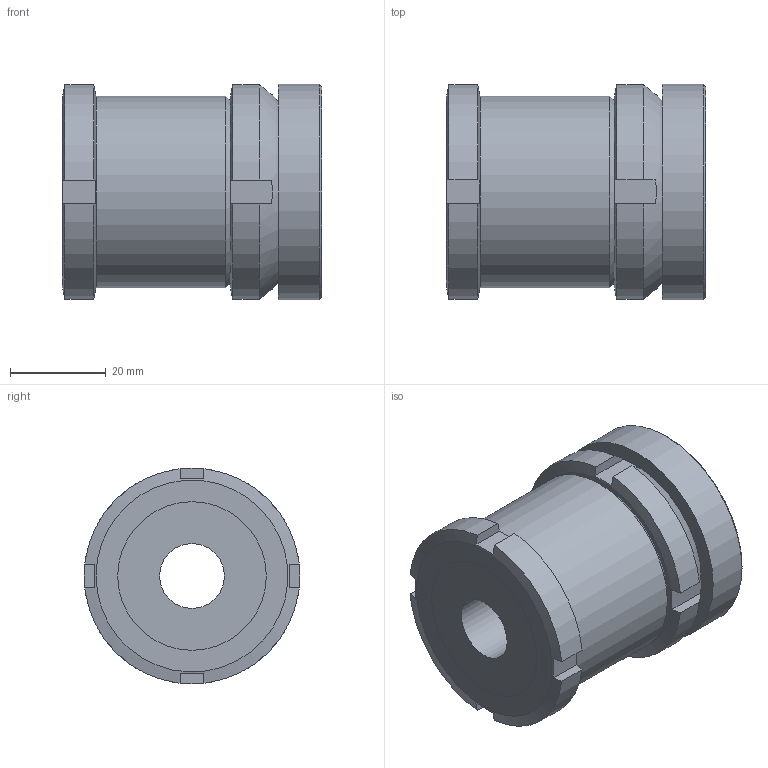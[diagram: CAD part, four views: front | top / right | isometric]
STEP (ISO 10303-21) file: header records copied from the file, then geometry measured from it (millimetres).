
FILE_DESCRIPTION( ( 'STEP AP203' ), '1' );
FILE_NAME( 'C:/Temp/Ganter_Step_05_03_2020/data/3_2/gn350_2/gn_350_2_ni/Stainless Steel-Levelling set GN 350.2-45-13,5-54-NI (0-0).stp', '2020-03-13T05:28:09', ( 'License CC BY-ND 4.0' ), ( 'CADENAS' ), ' ', 'PARTsolutions', ' ' );
FILE_SCHEMA( ( 'CONFIG_CONTROL_DESIGN' ) );
Length unit declared in the file: millimetre
Products named in the file (4): Stainless Steel-Levelling set GN 350.2-45-13,5-54-NI (0-0); _Levelling set GN 350.2-45-13,5-54-ST-G; _Levelling set GN 350.2-45-13,5-54-ST-K; _Levelling set GN 350.2-45-13,5-54-ST-P(0)
Assembly tree (3 placements, depth 2):
  Stainless Steel-Levelling set GN 350.2-45-13,5-54-NI (0-0)
    _Levelling set GN 350.2-45-13,5-54-ST-G
    _Levelling set GN 350.2-45-13,5-54-ST-K
    _Levelling set GN 350.2-45-13,5-54-ST-P(0)
Bounding box: 54 x 45 x 45 mm (x, y, z)
Volume: 65225.4 mm3; surface area: 23897.6 mm2
Topology: 3 solids, 3 shells, 62 faces, 149 edges, 99 vertices
Faces by surface type: plane 36, cylinder 19, cone 5, sphere 2
Full cylindrical faces by diameter (mm): 13.5 x1, 22 x1, 24.492 x1, 25.5 x1, 28.376 x1, 30 x2, 31 x2, 40 x1, 45 x1
Entity records: 1925 total; most frequent: CARTESIAN_POINT 462, DIRECTION 276, ORIENTED_EDGE 248, EDGE_CURVE 124, AXIS2_PLACEMENT_3D 122, EDGE_LOOP 92, VERTEX_POINT 92, FACE_OUTER_BOUND 75
